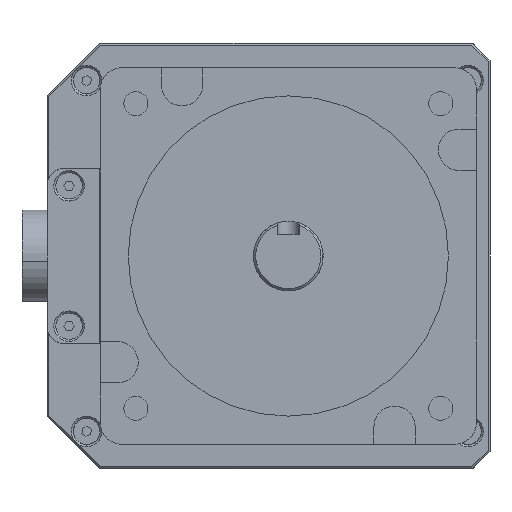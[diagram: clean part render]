
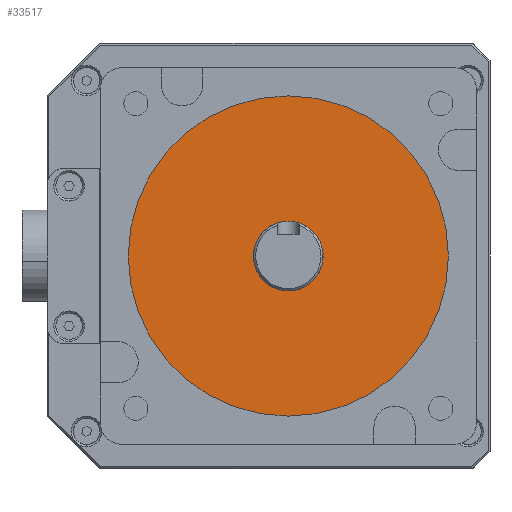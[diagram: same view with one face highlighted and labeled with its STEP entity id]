
A CAD part, left-side view. The second image highlights one B-rep face of the part: STEP entity #33517.
In plain terms, the highlighted planar face has unit normal (-1, 0, 0).
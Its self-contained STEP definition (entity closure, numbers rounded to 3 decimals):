
#365 = EDGE_CURVE ( 'NONE', #366, #489, #2907, .T. ) ;
#366 = VERTEX_POINT ( 'NONE', #2897 ) ;
#489 = VERTEX_POINT ( 'NONE', #3022 ) ;
#532 = VERTEX_POINT ( 'NONE', #3376 ) ;
#534 = EDGE_CURVE ( 'NONE', #532, #535, #3375, .T. ) ;
#535 = VERTEX_POINT ( 'NONE', #3370 ) ;
#2897 = CARTESIAN_POINT ( 'NONE',  ( -213.902, 14.225, 50.624 ) ) ;
#2898 = DIRECTION ( 'NONE',  ( 0., 0., 1. ) ) ;
#2899 = DIRECTION ( 'NONE',  ( -1., 0., 0. ) ) ;
#2900 = CARTESIAN_POINT ( 'NONE',  ( -213.902, 14.225, 14.114 ) ) ;
#2901 = AXIS2_PLACEMENT_3D ( 'NONE', #2900, #2899, #2898 ) ;
#2907 = CIRCLE ( 'NONE', #2901, 36.51 ) ;
#3022 = CARTESIAN_POINT ( 'NONE',  ( -213.902, 14.225, -22.396 ) ) ;
#3370 = CARTESIAN_POINT ( 'NONE',  ( -213.902, 14.225, 6.176 ) ) ;
#3371 = DIRECTION ( 'NONE',  ( 0., 0., 1. ) ) ;
#3372 = DIRECTION ( 'NONE',  ( -1., 0., 0. ) ) ;
#3373 = CARTESIAN_POINT ( 'NONE',  ( -213.902, 14.225, 14.114 ) ) ;
#3374 = AXIS2_PLACEMENT_3D ( 'NONE', #3373, #3372, #3371 ) ;
#3375 = CIRCLE ( 'NONE', #3374, 7.938 ) ;
#3376 = CARTESIAN_POINT ( 'NONE',  ( -213.902, 14.225, 22.051 ) ) ;
#11670 = DIRECTION ( 'NONE',  ( 0., 0., 1. ) ) ;
#11671 = DIRECTION ( 'NONE',  ( -1., 0., 0. ) ) ;
#11672 = AXIS2_PLACEMENT_3D ( 'NONE', #11677, #11671, #11670 ) ;
#11673 = CIRCLE ( 'NONE', #11672, 36.51 ) ;
#11674 = DIRECTION ( 'NONE',  ( 0., 0., 1. ) ) ;
#11675 = DIRECTION ( 'NONE',  ( -1., 0., 0. ) ) ;
#11676 = AXIS2_PLACEMENT_3D ( 'NONE', #11678, #11675, #11674 ) ;
#11677 = CARTESIAN_POINT ( 'NONE',  ( -213.902, 14.225, 14.114 ) ) ;
#11678 = CARTESIAN_POINT ( 'NONE',  ( -213.902, 14.225, 14.114 ) ) ;
#11679 = PLANE ( 'NONE',  #11676 ) ;
#11680 = FACE_BOUND ( 'NONE', #33482, .T. ) ;
#11681 = FACE_OUTER_BOUND ( 'NONE', #33518, .T. ) ;
#11683 = DIRECTION ( 'NONE',  ( 0., 0., 1. ) ) ;
#11684 = DIRECTION ( 'NONE',  ( -1., 0., 0. ) ) ;
#11685 = CARTESIAN_POINT ( 'NONE',  ( -213.902, 14.225, 14.114 ) ) ;
#11686 = AXIS2_PLACEMENT_3D ( 'NONE', #11685, #11684, #11683 ) ;
#11687 = CIRCLE ( 'NONE', #11686, 7.938 ) ;
#33482 = EDGE_LOOP ( 'NONE', ( #33484, #33486 ) ) ;
#33484 = ORIENTED_EDGE ( 'NONE', *, *, #33515, .F. ) ;
#33486 = ORIENTED_EDGE ( 'NONE', *, *, #534, .F. ) ;
#33515 = EDGE_CURVE ( 'NONE', #535, #532, #11687, .T. ) ;
#33517 = ADVANCED_FACE ( 'NONE', ( #11681, #11680 ), #11679, .T. ) ;
#33518 = EDGE_LOOP ( 'NONE', ( #33520, #33524 ) ) ;
#33520 = ORIENTED_EDGE ( 'NONE', *, *, #33522, .T. ) ;
#33522 = EDGE_CURVE ( 'NONE', #489, #366, #11673, .T. ) ;
#33524 = ORIENTED_EDGE ( 'NONE', *, *, #365, .T. ) ;
